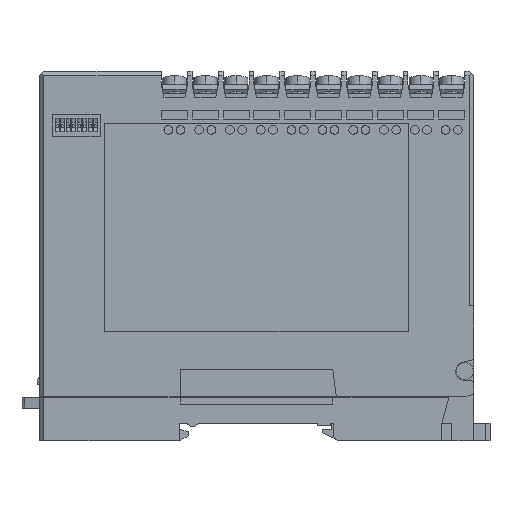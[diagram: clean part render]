
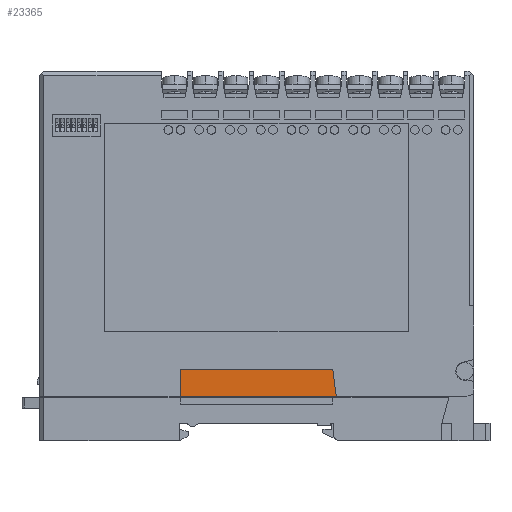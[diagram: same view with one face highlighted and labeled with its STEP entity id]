
A CAD part, left-side view. The second image highlights one B-rep face of the part: STEP entity #23365.
In plain terms, the highlighted planar face has unit normal (-1, 0, 0).
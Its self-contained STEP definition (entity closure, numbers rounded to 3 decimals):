
#212 = VERTEX_POINT ( 'NONE', #42166 ) ;
#1069 = DIRECTION ( 'NONE',  ( 1., 0., 0. ) ) ;
#1450 = DIRECTION ( 'NONE',  ( 0., 1., 0. ) ) ;
#1753 = EDGE_LOOP ( 'NONE', ( #25112, #26570, #5702, #53568 ) ) ;
#2250 = CARTESIAN_POINT ( 'NONE',  ( 0.2, 67.6, -75. ) ) ;
#2257 = CARTESIAN_POINT ( 'NONE',  ( 0.2, 67.6, -68.7 ) ) ;
#2334 = CARTESIAN_POINT ( 'NONE',  ( 0.2, 32.4, -68.7 ) ) ;
#5702 = ORIENTED_EDGE ( 'NONE', *, *, #7714, .T. ) ;
#7061 = VECTOR ( 'NONE', #25442, 1000. ) ;
#7714 = EDGE_CURVE ( 'NONE', #13469, #212, #21253, .T. ) ;
#10271 = DIRECTION ( 'NONE',  ( 0., 0., -1. ) ) ;
#10580 = AXIS2_PLACEMENT_3D ( 'NONE', #14451, #1069, #10271 ) ;
#13469 = VERTEX_POINT ( 'NONE', #27347 ) ;
#13905 = LINE ( 'NONE', #53800, #24474 ) ;
#14451 = CARTESIAN_POINT ( 'NONE',  ( 0.2, 0., 0. ) ) ;
#16185 = VERTEX_POINT ( 'NONE', #18996 ) ;
#16309 = LINE ( 'NONE', #2334, #41004 ) ;
#18996 = CARTESIAN_POINT ( 'NONE',  ( 0.2, 31.613, -75. ) ) ;
#21253 = LINE ( 'NONE', #2257, #7061 ) ;
#23365 = ADVANCED_FACE ( 'NONE', ( #32901 ), #51051, .F. ) ;
#24474 = VECTOR ( 'NONE', #35647, 1000. ) ;
#24651 = DIRECTION ( 'NONE',  ( 0., 0.124, 0.992 ) ) ;
#25112 = ORIENTED_EDGE ( 'NONE', *, *, #38587, .F. ) ;
#25442 = DIRECTION ( 'NONE',  ( 0., 1., 0. ) ) ;
#25964 = VECTOR ( 'NONE', #1450, 1000. ) ;
#26570 = ORIENTED_EDGE ( 'NONE', *, *, #49705, .T. ) ;
#27347 = CARTESIAN_POINT ( 'NONE',  ( 0.2, 32.4, -68.7 ) ) ;
#29112 = CARTESIAN_POINT ( 'NONE',  ( 0.2, 5.66, -75. ) ) ;
#32901 = FACE_OUTER_BOUND ( 'NONE', #1753, .T. ) ;
#34265 = VERTEX_POINT ( 'NONE', #2250 ) ;
#35647 = DIRECTION ( 'NONE',  ( 0., 0., -1. ) ) ;
#38587 = EDGE_CURVE ( 'NONE', #16185, #34265, #42211, .T. ) ;
#41004 = VECTOR ( 'NONE', #24651, 1000. ) ;
#42166 = CARTESIAN_POINT ( 'NONE',  ( 0.2, 67.6, -68.7 ) ) ;
#42211 = LINE ( 'NONE', #29112, #25964 ) ;
#45906 = EDGE_CURVE ( 'NONE', #212, #34265, #13905, .T. ) ;
#49705 = EDGE_CURVE ( 'NONE', #16185, #13469, #16309, .T. ) ;
#51051 = PLANE ( 'NONE',  #10580 ) ;
#53568 = ORIENTED_EDGE ( 'NONE', *, *, #45906, .T. ) ;
#53800 = CARTESIAN_POINT ( 'NONE',  ( 0.2, 67.6, -75. ) ) ;
